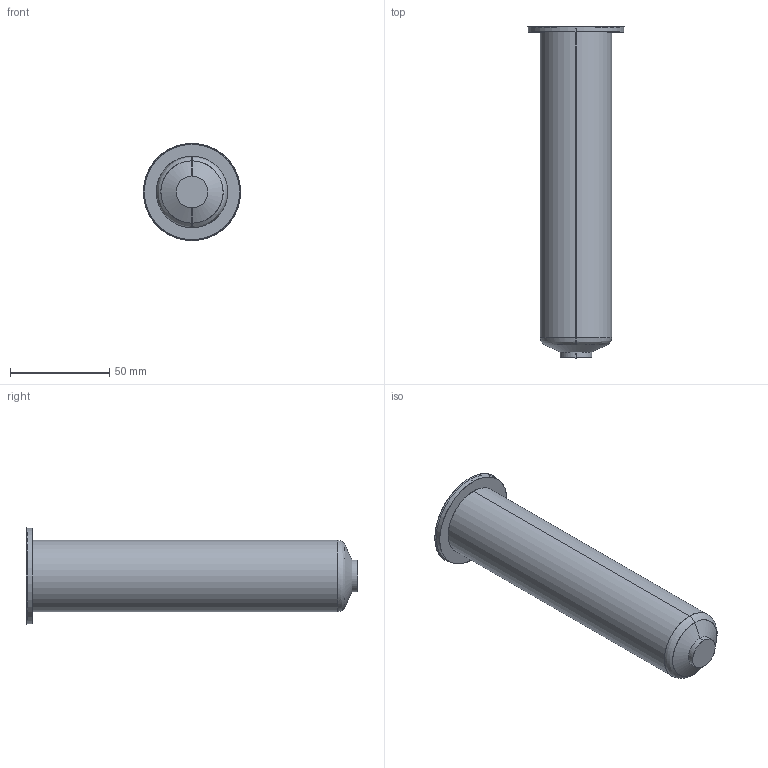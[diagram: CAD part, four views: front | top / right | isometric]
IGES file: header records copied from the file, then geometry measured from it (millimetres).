
Start section: SolidWorks IGES file using analytic representation for surfaces
Global section: file name: C:\Documents and Settings\ws-20\Desktop\TEMPORANEA\Sede UGBE5004-M-A C-164 L-184 P-0.IGS; native system: SolidWorks 2012; preprocessor: SolidWorks 2012; author: ws-20; date: 120307.090650; units: millimetre
Bounding box: 49 x 167.42 x 49 mm (x, y, z)
Surface area: 22076.4 mm2 (no closed solid volume)
Topology: 0 solids, 0 shells, 15 faces, 272 edges, 272 vertices
Faces by surface type: revolution 10, bspline 5
